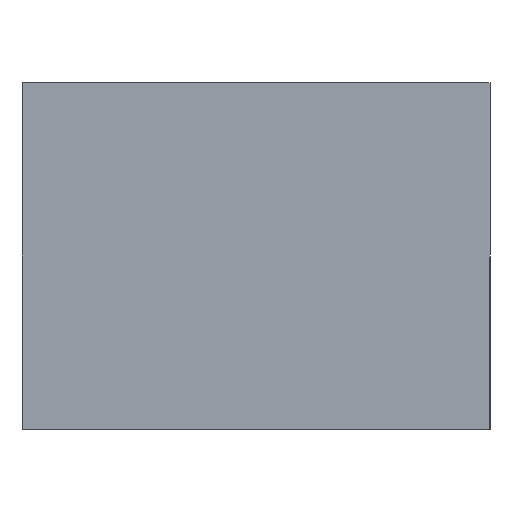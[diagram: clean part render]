
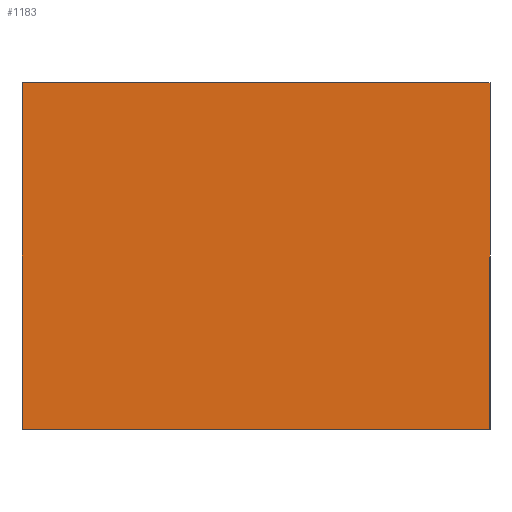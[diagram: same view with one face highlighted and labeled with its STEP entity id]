
A CAD part, front view. The second image highlights one B-rep face of the part: STEP entity #1183.
In plain terms, the highlighted planar face has unit normal (0, -1, 0).
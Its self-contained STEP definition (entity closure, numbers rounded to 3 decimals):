
#145 = CARTESIAN_POINT ( 'NONE',  ( -42.5, 0., -31.5 ) ) ;
#242 = VERTEX_POINT ( 'NONE', #361 ) ;
#361 = CARTESIAN_POINT ( 'NONE',  ( 42.5, 0., -31.5 ) ) ;
#370 = ORIENTED_EDGE ( 'NONE', *, *, #1570, .F. ) ;
#381 = DIRECTION ( 'NONE',  ( 0., 0., 1. ) ) ;
#430 = CARTESIAN_POINT ( 'NONE',  ( -42.5, 0., -31.5 ) ) ;
#682 = ORIENTED_EDGE ( 'NONE', *, *, #1904, .F. ) ;
#692 = CARTESIAN_POINT ( 'NONE',  ( -42.5, 0., -31.5 ) ) ;
#724 = DIRECTION ( 'NONE',  ( -1., 0., 0. ) ) ;
#802 = VECTOR ( 'NONE', #724, 1000. ) ;
#857 = LINE ( 'NONE', #145, #802 ) ;
#896 = CARTESIAN_POINT ( 'NONE',  ( 42.5, 0., -31.5 ) ) ;
#909 = CARTESIAN_POINT ( 'NONE',  ( -42.5, 0., 31.5 ) ) ;
#948 = DIRECTION ( 'NONE',  ( 1., 0., 0. ) ) ;
#950 = DIRECTION ( 'NONE',  ( 0., 0., -1. ) ) ;
#962 = PLANE ( 'NONE',  #1150 ) ;
#972 = CARTESIAN_POINT ( 'NONE',  ( 0., 0., 0. ) ) ;
#1052 = DIRECTION ( 'NONE',  ( 0., 1., 0. ) ) ;
#1080 = DIRECTION ( 'NONE',  ( 0., 0., 1. ) ) ;
#1099 = LINE ( 'NONE', #896, #1455 ) ;
#1116 = LINE ( 'NONE', #692, #1944 ) ;
#1128 = EDGE_CURVE ( 'NONE', #1821, #1633, #1700, .T. ) ;
#1150 = AXIS2_PLACEMENT_3D ( 'NONE', #972, #1052, #1080 ) ;
#1175 = EDGE_CURVE ( 'NONE', #1633, #242, #1099, .T. ) ;
#1183 = ADVANCED_FACE ( 'NONE', ( #2049 ), #962, .F. ) ;
#1311 = CARTESIAN_POINT ( 'NONE',  ( 42.5, 0., 31.5 ) ) ;
#1318 = VERTEX_POINT ( 'NONE', #430 ) ;
#1455 = VECTOR ( 'NONE', #950, 1000. ) ;
#1543 = CARTESIAN_POINT ( 'NONE',  ( -42.5, 0., 31.5 ) ) ;
#1570 = EDGE_CURVE ( 'NONE', #242, #1318, #857, .T. ) ;
#1633 = VERTEX_POINT ( 'NONE', #1311 ) ;
#1700 = LINE ( 'NONE', #909, #2144 ) ;
#1762 = ORIENTED_EDGE ( 'NONE', *, *, #1175, .F. ) ;
#1821 = VERTEX_POINT ( 'NONE', #1543 ) ;
#1904 = EDGE_CURVE ( 'NONE', #1318, #1821, #1116, .T. ) ;
#1944 = VECTOR ( 'NONE', #381, 1000. ) ;
#2045 = ORIENTED_EDGE ( 'NONE', *, *, #1128, .F. ) ;
#2049 = FACE_OUTER_BOUND ( 'NONE', #2174, .T. ) ;
#2144 = VECTOR ( 'NONE', #948, 1000. ) ;
#2174 = EDGE_LOOP ( 'NONE', ( #1762, #2045, #682, #370 ) ) ;
